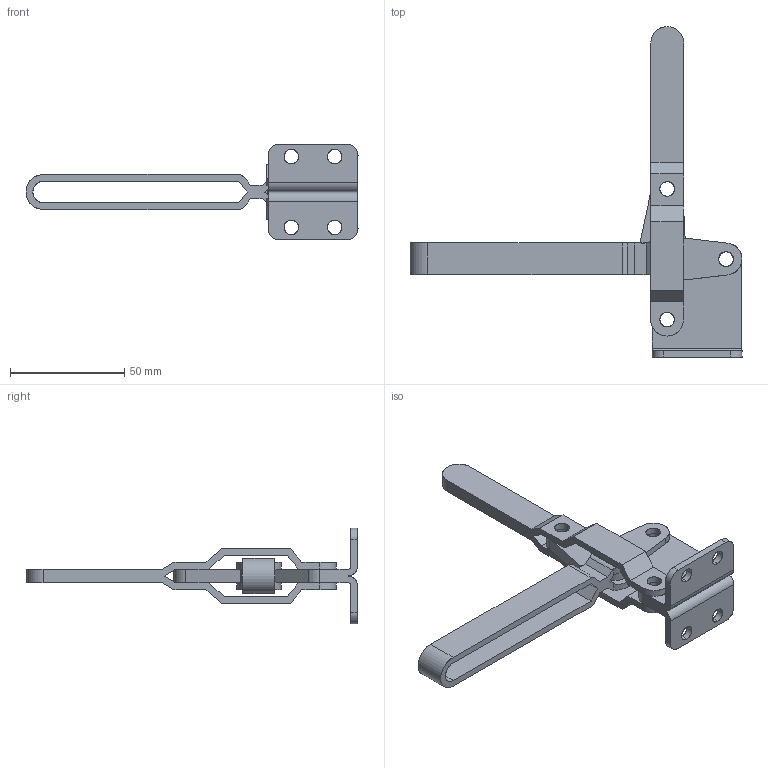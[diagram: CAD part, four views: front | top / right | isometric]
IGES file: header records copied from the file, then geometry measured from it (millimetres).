
Start section: SolidWorks IGES file using analytic representation for surfaces
Global section: file name: D:\GH Files\GH-SW-FILES\GH1\GH-101D\101DI\GH-101E.igs; native system: SolidWorks 2006 by SolidWorks Corporation; preprocessor: SolidWorks 2006 by SolidWorks Corporation; author: Administrator; date: 060825.165249; units: millimetre
Bounding box: 145.41 x 144.8 x 42 mm (x, y, z)
Surface area: 27647.9 mm2 (no closed solid volume)
Topology: 0 solids, 0 shells, 133 faces, 2202 edges, 2202 vertices
Faces by surface type: bspline 69, revolution 64
